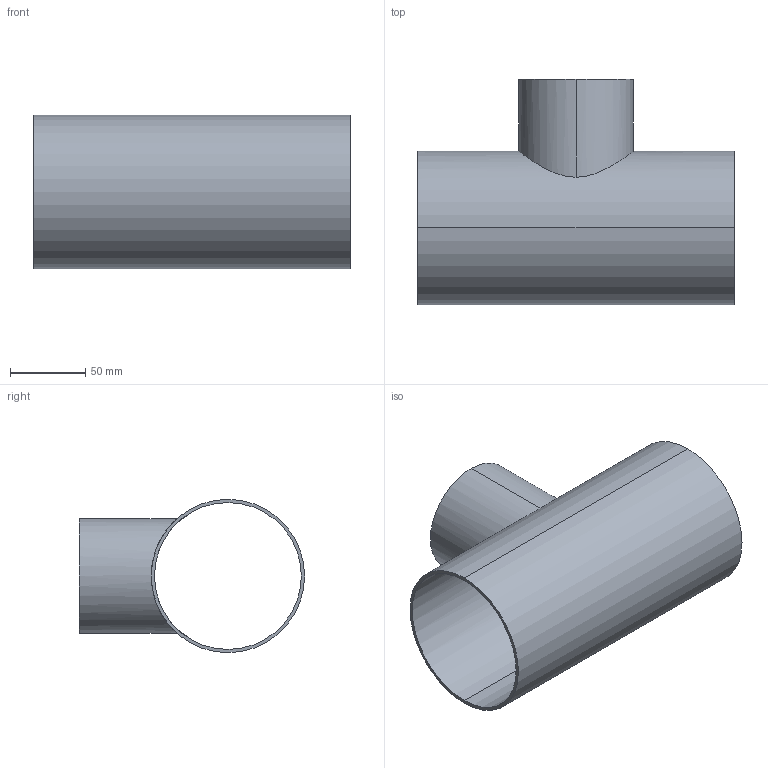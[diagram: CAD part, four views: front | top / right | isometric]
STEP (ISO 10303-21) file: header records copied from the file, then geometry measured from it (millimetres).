
FILE_DESCRIPTION (( 'STEP AP214' ), '1' );
FILE_NAME ('TE7RWWW6L4.0x3.0-...STEP', '2016-05-24T04:35:32', ( 'eran' ), ( '' ), 'SwSTEP 2.0', 'SolidWorks 2016', '' );
FILE_SCHEMA (( 'AUTOMOTIVE_DESIGN' ));
Length unit declared in the file: millimetre
Products named in the file (1): TE7RWWW6L4.0x3.0-..
Bounding box: 209.6 x 149.2 x 101.6 mm (x, y, z)
Volume: 150054.3 mm3; surface area: 149709.8 mm2
Topology: 1 solids, 1 shells, 11 faces, 24 edges, 16 vertices
Faces by surface type: cylinder 8, plane 3
Entity records: 628 total; most frequent: CARTESIAN_POINT 336, DIRECTION 56, ORIENTED_EDGE 48, EDGE_CURVE 24, AXIS2_PLACEMENT_3D 24, EDGE_LOOP 16, VERTEX_POINT 16, CIRCLE 12
